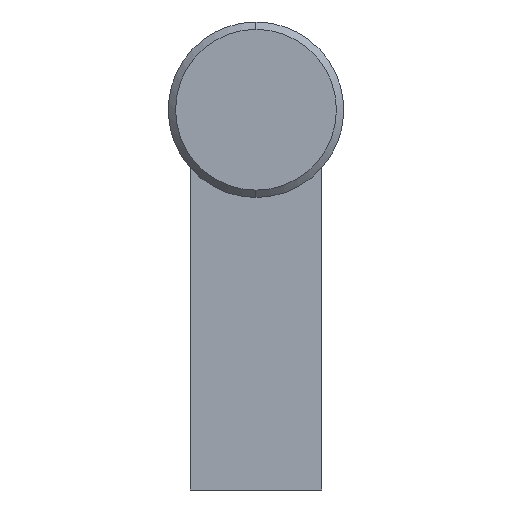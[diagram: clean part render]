
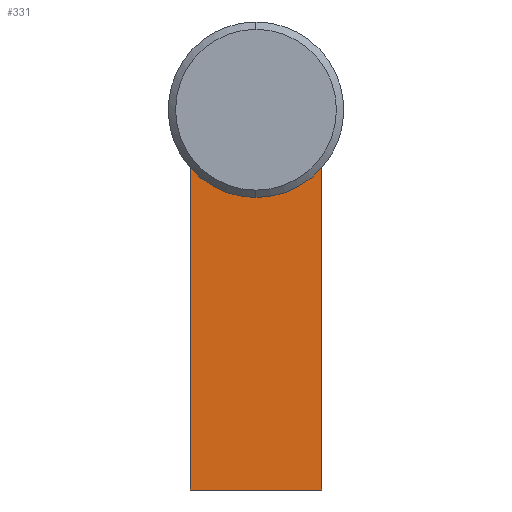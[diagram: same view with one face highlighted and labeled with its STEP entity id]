
A CAD part, left-side view. The second image highlights one B-rep face of the part: STEP entity #331.
In plain terms, the highlighted planar face has unit normal (-1, 0, 0).
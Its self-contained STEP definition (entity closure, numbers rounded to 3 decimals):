
#147 = EDGE_CURVE( '', #239, #193, #391, .T. );
#193 = VERTEX_POINT( '', #444 );
#213 = VERTEX_POINT( '', #467 );
#225 = EDGE_CURVE( '', #239, #277, #480, .T. );
#227 = EDGE_CURVE( '', #341, #213, #482, .T. );
#239 = VERTEX_POINT( '', #496 );
#257 = EDGE_CURVE( '', #193, #213, #518, .T. );
#277 = VERTEX_POINT( '', #539 );
#297 = EDGE_CURVE( '', #277, #341, #560, .T. );
#331 = ADVANCED_FACE( '', ( #597 ), #598, .F. );
#341 = VERTEX_POINT( '', #609 );
#391 = CIRCLE( '', #654, 6. );
#444 = CARTESIAN_POINT( '', ( -10.5, 0., 20. ) );
#467 = CARTESIAN_POINT( '', ( -10.5, 4.5, 22.031 ) );
#480 = LINE( '', #766, #767 );
#482 = LINE( '', #770, #771 );
#496 = CARTESIAN_POINT( '', ( -10.5, -4.5, 22.031 ) );
#518 = CIRCLE( '', #816, 6. );
#539 = CARTESIAN_POINT( '', ( -10.5, -4.5, 0. ) );
#560 = LINE( '', #869, #870 );
#597 = FACE_OUTER_BOUND( '', #926, .T. );
#598 = PLANE( '', #927 );
#609 = CARTESIAN_POINT( '', ( -10.5, 4.5, 0. ) );
#654 = AXIS2_PLACEMENT_3D( '', #996, #997, #998 );
#766 = CARTESIAN_POINT( '', ( -10.5, -4.5, 22.031 ) );
#767 = VECTOR( '', #1109, 1. );
#770 = CARTESIAN_POINT( '', ( -10.5, 4.5, 0. ) );
#771 = VECTOR( '', #1110, 1. );
#816 = AXIS2_PLACEMENT_3D( '', #1168, #1169, #1170 );
#869 = CARTESIAN_POINT( '', ( -10.5, -4.5, 0. ) );
#870 = VECTOR( '', #1209, 1. );
#926 = EDGE_LOOP( '', ( #1246, #1247, #1248, #1249, #1250 ) );
#927 = AXIS2_PLACEMENT_3D( '', #1251, #1252, #1253 );
#996 = CARTESIAN_POINT( '', ( -10.5, 0., 26. ) );
#997 = DIRECTION( '', ( 1., 0., 0. ) );
#998 = DIRECTION( '', ( 0., 0., 1. ) );
#1109 = DIRECTION( '', ( 0., 0., -1. ) );
#1110 = DIRECTION( '', ( 0., 0., 1. ) );
#1168 = CARTESIAN_POINT( '', ( -10.5, 0., 26. ) );
#1169 = DIRECTION( '', ( 1., 0., 0. ) );
#1170 = DIRECTION( '', ( 0., 0., 1. ) );
#1209 = DIRECTION( '', ( 0., 1., 0. ) );
#1246 = ORIENTED_EDGE( '', *, *, #225, .F. );
#1247 = ORIENTED_EDGE( '', *, *, #147, .T. );
#1248 = ORIENTED_EDGE( '', *, *, #257, .T. );
#1249 = ORIENTED_EDGE( '', *, *, #227, .F. );
#1250 = ORIENTED_EDGE( '', *, *, #297, .F. );
#1251 = CARTESIAN_POINT( '', ( -10.5, 0., 0. ) );
#1252 = DIRECTION( '', ( 1., 0., 0. ) );
#1253 = DIRECTION( '', ( 0., 0., -1. ) );
